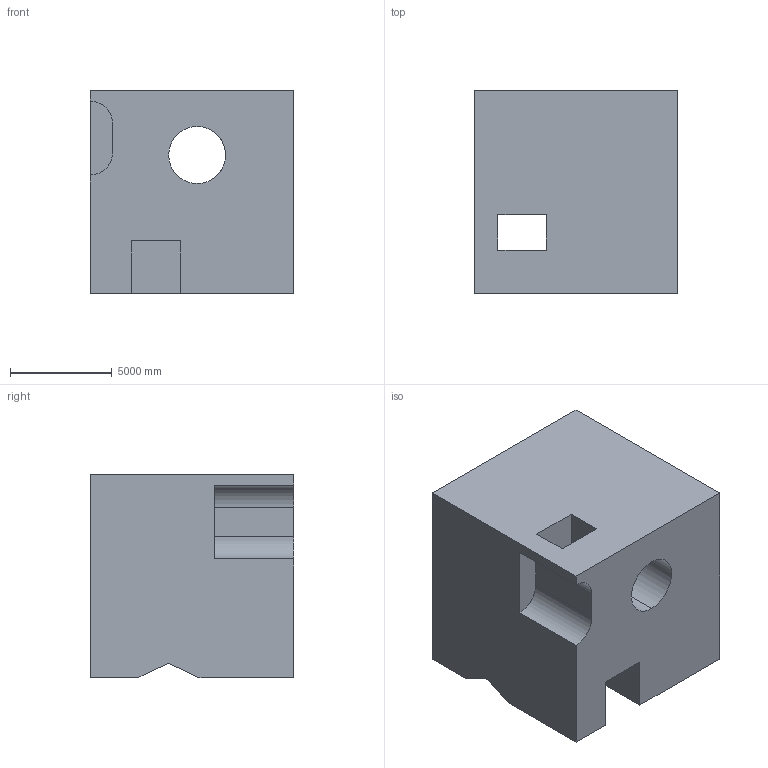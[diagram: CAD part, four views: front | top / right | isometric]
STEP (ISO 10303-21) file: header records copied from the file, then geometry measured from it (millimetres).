
FILE_DESCRIPTION (( 'STEP AP203' ), '1' );
FILE_NAME ('1553.STEP', '2022-08-18T15:45:26', ( 'user' ), ( '' ), 'SwSTEP 2.0', 'SolidWorks 2021', '' );
FILE_SCHEMA (( 'CONFIG_CONTROL_DESIGN' ));
Length unit declared in the file: centimetre
Products named in the file (1): 1553
Bounding box: 10000 x 10000 x 10000 mm (x, y, z)
Volume: 781915917314.7 mm3; surface area: 846686474.1 mm2
Topology: 1 solids, 1 shells, 30 faces, 90 edges, 60 vertices
Faces by surface type: plane 24, cylinder 6
Entity records: 1359 total; most frequent: CARTESIAN_POINT 451, ORIENTED_EDGE 180, DIRECTION 162, EDGE_CURVE 90, VECTOR 74, LINE 74, VERTEX_POINT 60, AXIS2_PLACEMENT_3D 44
